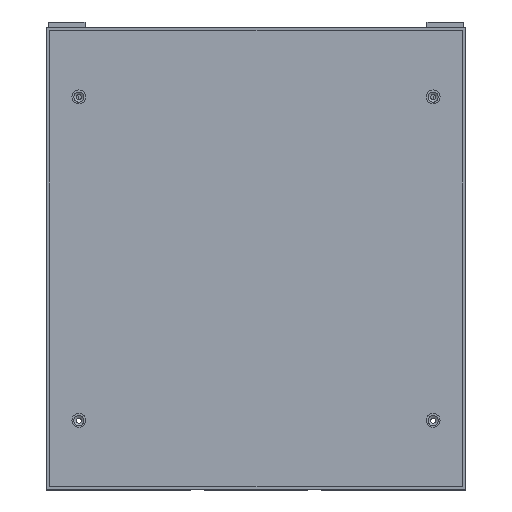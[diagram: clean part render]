
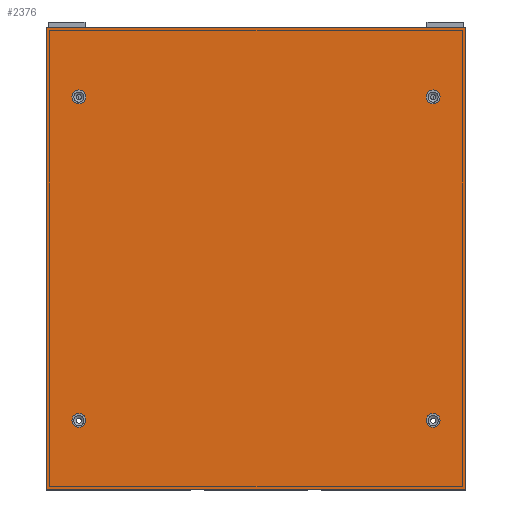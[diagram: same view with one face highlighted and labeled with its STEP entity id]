
A CAD part, top view. The second image highlights one B-rep face of the part: STEP entity #2376.
In plain terms, the highlighted planar face has unit normal (0, 0, 1).
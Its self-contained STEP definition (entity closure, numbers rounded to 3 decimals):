
#296=FACE_BOUND('',#4403,.T.);
#297=FACE_BOUND('',#4404,.T.);
#298=FACE_BOUND('',#4405,.T.);
#299=FACE_BOUND('',#4406,.T.);
#300=FACE_BOUND('',#4407,.T.);
#958=PLANE('',#16541);
#1548=CIRCLE('',#16537,2.25);
#1549=CIRCLE('',#16538,2.25);
#1550=CIRCLE('',#16539,2.25);
#1551=CIRCLE('',#16540,2.25);
#2376=ADVANCED_FACE('',(#296,#297,#298,#299,#300),#958,.F.);
#4403=EDGE_LOOP('',(#6699));
#4404=EDGE_LOOP('',(#6700));
#4405=EDGE_LOOP('',(#6701));
#4406=EDGE_LOOP('',(#6702));
#4407=EDGE_LOOP('',(#6703,#6704,#6705,#6706));
#6699=ORIENTED_EDGE('',*,*,#12314,.F.);
#6700=ORIENTED_EDGE('',*,*,#12315,.F.);
#6701=ORIENTED_EDGE('',*,*,#12316,.F.);
#6702=ORIENTED_EDGE('',*,*,#12317,.F.);
#6703=ORIENTED_EDGE('',*,*,#11989,.F.);
#6704=ORIENTED_EDGE('',*,*,#12318,.F.);
#6705=ORIENTED_EDGE('',*,*,#11919,.F.);
#6706=ORIENTED_EDGE('',*,*,#12319,.F.);
#10300=VERTEX_POINT('',#24092);
#10301=VERTEX_POINT('',#24094);
#10342=VERTEX_POINT('',#24223);
#10343=VERTEX_POINT('',#24225);
#10553=VERTEX_POINT('',#24883);
#10554=VERTEX_POINT('',#24885);
#10555=VERTEX_POINT('',#24887);
#10556=VERTEX_POINT('',#24889);
#11919=EDGE_CURVE('',#10300,#10301,#13932,.T.);
#11989=EDGE_CURVE('',#10342,#10343,#13984,.T.);
#12314=EDGE_CURVE('',#10553,#10553,#1548,.T.);
#12315=EDGE_CURVE('',#10554,#10554,#1549,.T.);
#12316=EDGE_CURVE('',#10555,#10555,#1550,.T.);
#12317=EDGE_CURVE('',#10556,#10556,#1551,.T.);
#12318=EDGE_CURVE('',#10301,#10342,#14186,.T.);
#12319=EDGE_CURVE('',#10343,#10300,#14187,.T.);
#13932=LINE('',#24093,#15092);
#13984=LINE('',#24224,#15144);
#14186=LINE('',#24890,#15346);
#14187=LINE('',#24891,#15347);
#15092=VECTOR('',#18455,1.);
#15144=VECTOR('',#18581,1.);
#15346=VECTOR('',#19283,1.);
#15347=VECTOR('',#19284,1.);
#16537=AXIS2_PLACEMENT_3D('',#24882,#19275,#19276);
#16538=AXIS2_PLACEMENT_3D('',#24884,#19277,#19278);
#16539=AXIS2_PLACEMENT_3D('',#24886,#19279,#19280);
#16540=AXIS2_PLACEMENT_3D('',#24888,#19281,#19282);
#16541=AXIS2_PLACEMENT_3D('',#24892,#19285,#19286);
#18455=DIRECTION('',(0.,1.,0.));
#18581=DIRECTION('',(0.,-1.,0.));
#19275=DIRECTION('',(0.,0.,1.));
#19276=DIRECTION('',(-1.,0.,0.));
#19277=DIRECTION('',(0.,0.,1.));
#19278=DIRECTION('',(1.,0.,0.));
#19279=DIRECTION('',(0.,0.,1.));
#19280=DIRECTION('',(-1.,0.,0.));
#19281=DIRECTION('',(0.,0.,1.));
#19282=DIRECTION('',(1.,0.,0.));
#19283=DIRECTION('',(1.,0.,0.));
#19284=DIRECTION('',(-1.,0.,0.));
#19285=DIRECTION('',(0.,0.,-1.));
#19286=DIRECTION('',(1.,0.,0.));
#24092=CARTESIAN_POINT('',(-68.,-78.,193.));
#24093=CARTESIAN_POINT('',(-68.,72.,193.));
#24094=CARTESIAN_POINT('',(-68.,72.,193.));
#24223=CARTESIAN_POINT('',(68.,72.,193.));
#24224=CARTESIAN_POINT('',(68.,72.,193.));
#24225=CARTESIAN_POINT('',(68.,-78.,193.));
#24882=CARTESIAN_POINT('',(-57.5,-55.5,193.));
#24883=CARTESIAN_POINT('',(-59.75,-55.5,193.));
#24884=CARTESIAN_POINT('',(57.5,-55.5,193.));
#24885=CARTESIAN_POINT('',(59.75,-55.5,193.));
#24886=CARTESIAN_POINT('',(57.5,49.5,193.));
#24887=CARTESIAN_POINT('',(55.25,49.5,193.));
#24888=CARTESIAN_POINT('',(-57.5,49.5,193.));
#24889=CARTESIAN_POINT('',(-55.25,49.5,193.));
#24890=CARTESIAN_POINT('',(68.,72.,193.));
#24891=CARTESIAN_POINT('',(68.,-78.,193.));
#24892=CARTESIAN_POINT('',(0.,-3.,193.));
